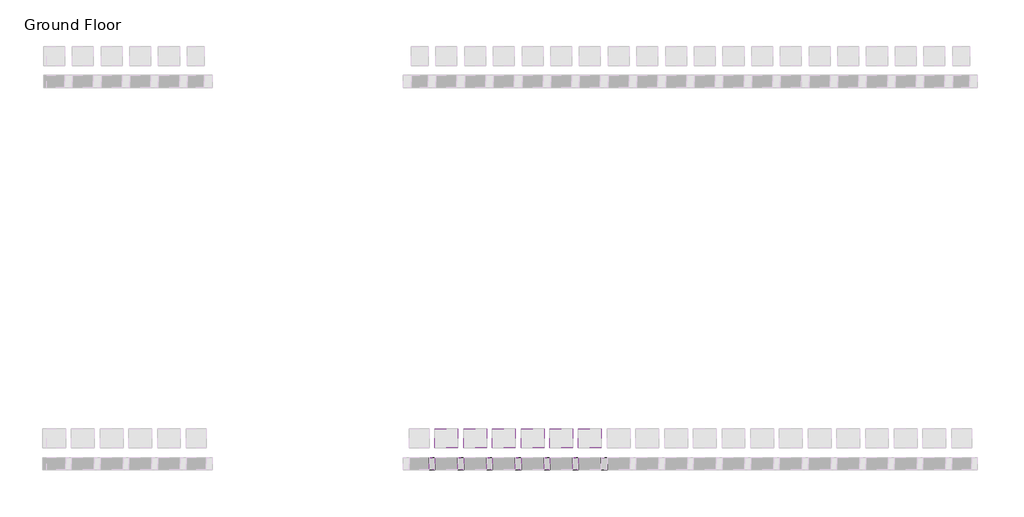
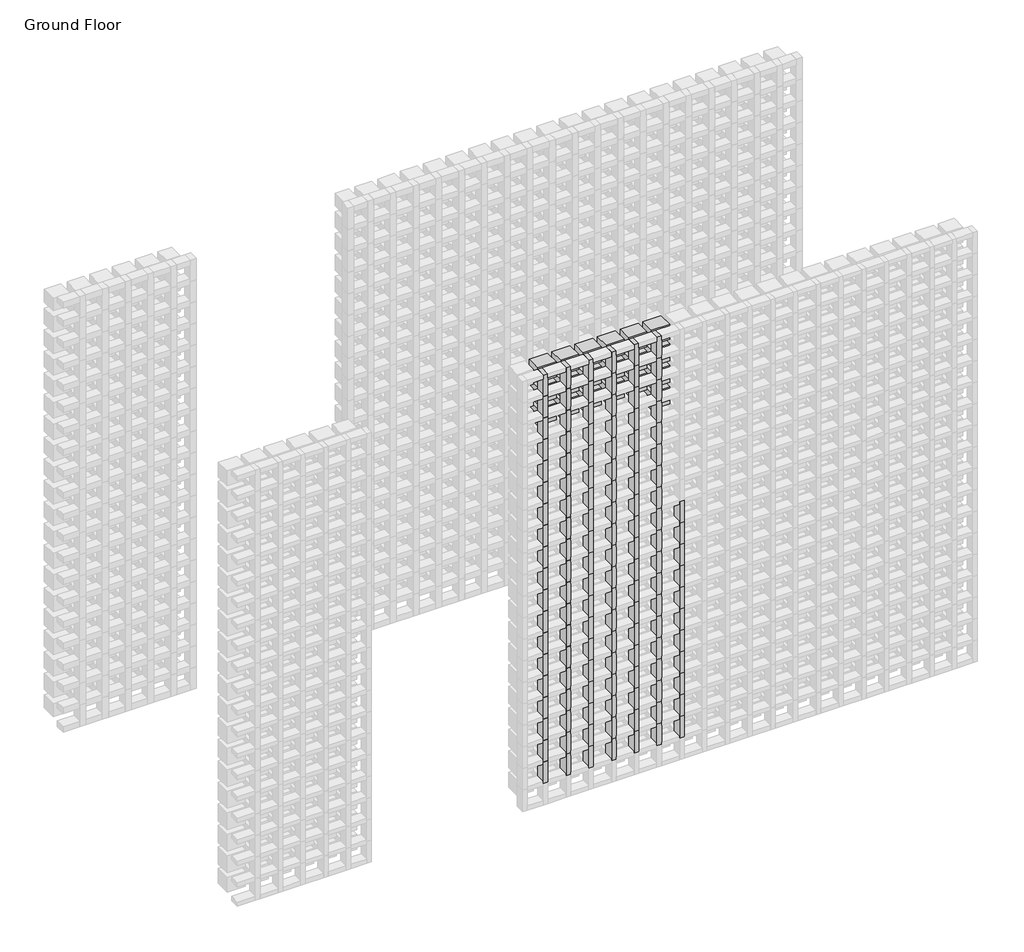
# One storey, part 66 of 350: 125 members, 19 plates.
"""IFC4 building model written with IfcOpenShell, lengths in millimetres."""

from ifc_helpers import new_model, si_unit, origin, place, context, project, spatial, transform, mapped, element, save
from components import rectangular_mullion_5b501421, empty_system_panel_empty_a57e421f, empty_system_panel_empty_fe50b430

model = new_model("IFC4")

# Units and contexts
model_context = context("Model", 3, world=origin())
ifc_project = project(units=[si_unit("LENGTHUNIT", "METRE", prefix="MILLI")], contexts=[model_context])

# Site, building, storey
site = spatial("IfcSite", under=ifc_project)
building = spatial("IfcBuilding", under=site)
storey = spatial("IfcBuildingStorey", under=building, Name="Ground Floor", Elevation=0.0)

# Members
placement = place(None, origin())
rectangular_mullion_shape = rectangular_mullion_5b501421(model_context)
element("IfcMember", 1, ObjectType="Rectangular Mullion : Batten_Timber_Modinex_Austratus_Grid_Fascia_30x65_Hemlock", at=placement, inside=storey, context=model_context, shape_type="MappedRepresentation", body=[
    mapped(rectangular_mullion_shape, transform((10066.4361642, 38968.2978302, 150.0), x_axis=(1.0, 0.0, 0.0), y_axis=(0.0, -1.0, 0.0), z_axis=(0.0, 0.0, -1.0))),
])
element("IfcMember", 2, ObjectType="Rectangular Mullion : Batten_Timber_Modinex_Austratus_Grid_Fascia_30x65_Hemlock", at=placement, inside=storey, context=model_context, shape_type="MappedRepresentation", body=[
    mapped(rectangular_mullion_shape, transform((10066.4361642, 38968.2978302, 300.0), x_axis=(1.0, 0.0, 0.0), y_axis=(0.0, -1.0, 0.0), z_axis=(0.0, 0.0, -1.0))),
])
element("IfcMember", 3, ObjectType="Rectangular Mullion : Batten_Timber_Modinex_Austratus_Grid_Fascia_30x65_Hemlock", at=placement, inside=storey, context=model_context, shape_type="MappedRepresentation", body=[
    mapped(rectangular_mullion_shape, transform((10066.4361642, 38968.2978302, 450.0), x_axis=(1.0, 0.0, 0.0), y_axis=(0.0, -1.0, 0.0), z_axis=(0.0, 0.0, -1.0))),
])
element("IfcMember", 4, ObjectType="Rectangular Mullion : Batten_Timber_Modinex_Austratus_Grid_Fascia_30x65_Hemlock", at=placement, inside=storey, context=model_context, shape_type="MappedRepresentation", body=[
    mapped(rectangular_mullion_shape, transform((10066.4361642, 38968.2978302, 600.0), x_axis=(1.0, 0.0, 0.0), y_axis=(0.0, -1.0, 0.0), z_axis=(0.0, 0.0, -1.0))),
])
element("IfcMember", 5, ObjectType="Rectangular Mullion : Batten_Timber_Modinex_Austratus_Grid_Fascia_30x65_Hemlock", at=placement, inside=storey, context=model_context, shape_type="MappedRepresentation", body=[
    mapped(rectangular_mullion_shape, transform((10066.4361642, 38968.2978302, 750.0), x_axis=(1.0, 0.0, 0.0), y_axis=(0.0, -1.0, 0.0), z_axis=(0.0, 0.0, -1.0))),
])
element("IfcMember", 6, ObjectType="Rectangular Mullion : Batten_Timber_Modinex_Austratus_Grid_Fascia_30x65_Hemlock", at=placement, inside=storey, context=model_context, shape_type="MappedRepresentation", body=[
    mapped(rectangular_mullion_shape, transform((10066.4361642, 38968.2978302, 900.0), x_axis=(1.0, 0.0, 0.0), y_axis=(0.0, -1.0, 0.0), z_axis=(0.0, 0.0, -1.0))),
])
element("IfcMember", 7, ObjectType="Rectangular Mullion : Batten_Timber_Modinex_Austratus_Grid_Fascia_30x65_Hemlock", at=placement, inside=storey, context=model_context, shape_type="MappedRepresentation", body=[
    mapped(rectangular_mullion_shape, transform((10066.4361642, 38968.2978302, 1050.0), x_axis=(1.0, 0.0, 0.0), y_axis=(0.0, -1.0, 0.0), z_axis=(0.0, 0.0, -1.0))),
])
element("IfcMember", 8, ObjectType="Rectangular Mullion : Batten_Timber_Modinex_Austratus_Grid_Fascia_30x65_Hemlock", at=placement, inside=storey, context=model_context, shape_type="MappedRepresentation", body=[
    mapped(rectangular_mullion_shape, transform((10066.4361642, 38968.2978302, 1200.0), x_axis=(1.0, 0.0, 0.0), y_axis=(0.0, -1.0, 0.0), z_axis=(0.0, 0.0, -1.0))),
])
element("IfcMember", 9, ObjectType="Rectangular Mullion : Batten_Timber_Modinex_Austratus_Grid_Fascia_30x65_Hemlock", at=placement, inside=storey, context=model_context, shape_type="MappedRepresentation", body=[
    mapped(rectangular_mullion_shape, transform((10066.4361642, 38968.2978302, 1350.0), x_axis=(1.0, 0.0, 0.0), y_axis=(0.0, -1.0, 0.0), z_axis=(0.0, 0.0, -1.0))),
])
element("IfcMember", 10, ObjectType="Rectangular Mullion : Batten_Timber_Modinex_Austratus_Grid_Fascia_30x65_Hemlock", at=placement, inside=storey, context=model_context, shape_type="MappedRepresentation", body=[
    mapped(rectangular_mullion_shape, transform((10066.4361642, 38968.2978302, 1500.0), x_axis=(1.0, 0.0, 0.0), y_axis=(0.0, -1.0, 0.0), z_axis=(0.0, 0.0, -1.0))),
])
element("IfcMember", 11, ObjectType="Rectangular Mullion : Batten_Timber_Modinex_Austratus_Grid_Fascia_30x65_Hemlock", at=placement, inside=storey, context=model_context, shape_type="MappedRepresentation", body=[
    mapped(rectangular_mullion_shape, transform((10066.4361642, 38968.2978302, 1650.0), x_axis=(1.0, 0.0, 0.0), y_axis=(0.0, -1.0, 0.0), z_axis=(0.0, 0.0, -1.0))),
])
element("IfcMember", 12, ObjectType="Rectangular Mullion : Batten_Timber_Modinex_Austratus_Grid_Fascia_30x65_Hemlock", at=placement, inside=storey, context=model_context, shape_type="MappedRepresentation", body=[
    mapped(rectangular_mullion_shape, transform((10066.4361642, 38968.2978302, 1800.0), x_axis=(1.0, 0.0, 0.0), y_axis=(0.0, -1.0, 0.0), z_axis=(0.0, 0.0, -1.0))),
])
element("IfcMember", 13, ObjectType="Rectangular Mullion : Batten_Timber_Modinex_Austratus_Grid_Fascia_30x65_Hemlock", at=placement, inside=storey, context=model_context, shape_type="MappedRepresentation", body=[
    mapped(rectangular_mullion_shape, transform((10066.4361642, 38968.2978302, 1950.0), x_axis=(1.0, 0.0, 0.0), y_axis=(0.0, -1.0, 0.0), z_axis=(0.0, 0.0, -1.0))),
])
element("IfcMember", 14, ObjectType="Rectangular Mullion : Batten_Timber_Modinex_Austratus_Grid_Fascia_30x65_Hemlock", at=placement, inside=storey, context=model_context, shape_type="MappedRepresentation", body=[
    mapped(rectangular_mullion_shape, transform((10066.4361642, 38968.2978302, 2100.0), x_axis=(1.0, 0.0, 0.0), y_axis=(0.0, -1.0, 0.0), z_axis=(0.0, 0.0, -1.0))),
])
element("IfcMember", 15, ObjectType="Rectangular Mullion : Batten_Timber_Modinex_Austratus_Grid_Fascia_30x65_Hemlock", at=placement, inside=storey, context=model_context, shape_type="MappedRepresentation", body=[
    mapped(rectangular_mullion_shape, transform((10066.4361642, 38968.2978302, 2250.0), x_axis=(1.0, 0.0, 0.0), y_axis=(0.0, -1.0, 0.0), z_axis=(0.0, 0.0, -1.0))),
])
element("IfcMember", 16, ObjectType="Rectangular Mullion : Batten_Timber_Modinex_Austratus_Grid_Fascia_30x65_Hemlock", at=placement, inside=storey, context=model_context, shape_type="MappedRepresentation", body=[
    mapped(rectangular_mullion_shape, transform((10066.4361642, 38968.2978302, 2400.0), x_axis=(1.0, 0.0, 0.0), y_axis=(0.0, -1.0, 0.0), z_axis=(0.0, 0.0, -1.0))),
])
element("IfcMember", 17, ObjectType="Rectangular Mullion : Batten_Timber_Modinex_Austratus_Grid_Fascia_30x65_Hemlock", at=placement, inside=storey, context=model_context, shape_type="MappedRepresentation", body=[
    mapped(rectangular_mullion_shape, transform((10066.4361642, 38968.2978302, 2550.0), x_axis=(1.0, 0.0, 0.0), y_axis=(0.0, -1.0, 0.0), z_axis=(0.0, 0.0, -1.0))),
])
element("IfcMember", 18, ObjectType="Rectangular Mullion : Batten_Timber_Modinex_Austratus_Grid_Fascia_30x65_Hemlock", at=placement, inside=storey, context=model_context, shape_type="MappedRepresentation", body=[
    mapped(rectangular_mullion_shape, transform((10066.4361642, 38968.2978302, 2700.0), x_axis=(1.0, 0.0, 0.0), y_axis=(0.0, -1.0, 0.0), z_axis=(0.0, 0.0, -1.0))),
])
element("IfcMember", 19, ObjectType="Rectangular Mullion : Batten_Timber_Modinex_Austratus_Grid_Fascia_30x65_Hemlock", at=placement, inside=storey, context=model_context, shape_type="MappedRepresentation", body=[
    mapped(rectangular_mullion_shape, transform((10216.4361642, 38968.2978302, 150.0), x_axis=(1.0, 0.0, 0.0), y_axis=(0.0, -1.0, 0.0), z_axis=(0.0, 0.0, -1.0))),
])
element("IfcMember", 20, ObjectType="Rectangular Mullion : Batten_Timber_Modinex_Austratus_Grid_Fascia_30x65_Hemlock", at=placement, inside=storey, context=model_context, shape_type="MappedRepresentation", body=[
    mapped(rectangular_mullion_shape, transform((10216.4361642, 38968.2978302, 300.0), x_axis=(1.0, 0.0, 0.0), y_axis=(0.0, -1.0, 0.0), z_axis=(0.0, 0.0, -1.0))),
])
element("IfcMember", 21, ObjectType="Rectangular Mullion : Batten_Timber_Modinex_Austratus_Grid_Fascia_30x65_Hemlock", at=placement, inside=storey, context=model_context, shape_type="MappedRepresentation", body=[
    mapped(rectangular_mullion_shape, transform((10216.4361642, 38968.2978302, 450.0), x_axis=(1.0, 0.0, 0.0), y_axis=(0.0, -1.0, 0.0), z_axis=(0.0, 0.0, -1.0))),
])
element("IfcMember", 22, ObjectType="Rectangular Mullion : Batten_Timber_Modinex_Austratus_Grid_Fascia_30x65_Hemlock", at=placement, inside=storey, context=model_context, shape_type="MappedRepresentation", body=[
    mapped(rectangular_mullion_shape, transform((10216.4361642, 38968.2978302, 600.0), x_axis=(1.0, 0.0, 0.0), y_axis=(0.0, -1.0, 0.0), z_axis=(0.0, 0.0, -1.0))),
])
element("IfcMember", 23, ObjectType="Rectangular Mullion : Batten_Timber_Modinex_Austratus_Grid_Fascia_30x65_Hemlock", at=placement, inside=storey, context=model_context, shape_type="MappedRepresentation", body=[
    mapped(rectangular_mullion_shape, transform((10216.4361642, 38968.2978302, 750.0), x_axis=(1.0, 0.0, 0.0), y_axis=(0.0, -1.0, 0.0), z_axis=(0.0, 0.0, -1.0))),
])
element("IfcMember", 24, ObjectType="Rectangular Mullion : Batten_Timber_Modinex_Austratus_Grid_Fascia_30x65_Hemlock", at=placement, inside=storey, context=model_context, shape_type="MappedRepresentation", body=[
    mapped(rectangular_mullion_shape, transform((10216.4361642, 38968.2978302, 900.0), x_axis=(1.0, 0.0, 0.0), y_axis=(0.0, -1.0, 0.0), z_axis=(0.0, 0.0, -1.0))),
])
element("IfcMember", 25, ObjectType="Rectangular Mullion : Batten_Timber_Modinex_Austratus_Grid_Fascia_30x65_Hemlock", at=placement, inside=storey, context=model_context, shape_type="MappedRepresentation", body=[
    mapped(rectangular_mullion_shape, transform((10216.4361642, 38968.2978302, 1050.0), x_axis=(1.0, 0.0, 0.0), y_axis=(0.0, -1.0, 0.0), z_axis=(0.0, 0.0, -1.0))),
])
element("IfcMember", 26, ObjectType="Rectangular Mullion : Batten_Timber_Modinex_Austratus_Grid_Fascia_30x65_Hemlock", at=placement, inside=storey, context=model_context, shape_type="MappedRepresentation", body=[
    mapped(rectangular_mullion_shape, transform((10216.4361642, 38968.2978302, 1200.0), x_axis=(1.0, 0.0, 0.0), y_axis=(0.0, -1.0, 0.0), z_axis=(0.0, 0.0, -1.0))),
])
element("IfcMember", 27, ObjectType="Rectangular Mullion : Batten_Timber_Modinex_Austratus_Grid_Fascia_30x65_Hemlock", at=placement, inside=storey, context=model_context, shape_type="MappedRepresentation", body=[
    mapped(rectangular_mullion_shape, transform((10216.4361642, 38968.2978302, 1350.0), x_axis=(1.0, 0.0, 0.0), y_axis=(0.0, -1.0, 0.0), z_axis=(0.0, 0.0, -1.0))),
])
element("IfcMember", 28, ObjectType="Rectangular Mullion : Batten_Timber_Modinex_Austratus_Grid_Fascia_30x65_Hemlock", at=placement, inside=storey, context=model_context, shape_type="MappedRepresentation", body=[
    mapped(rectangular_mullion_shape, transform((10216.4361642, 38968.2978302, 1500.0), x_axis=(1.0, 0.0, 0.0), y_axis=(0.0, -1.0, 0.0), z_axis=(0.0, 0.0, -1.0))),
])
element("IfcMember", 29, ObjectType="Rectangular Mullion : Batten_Timber_Modinex_Austratus_Grid_Fascia_30x65_Hemlock", at=placement, inside=storey, context=model_context, shape_type="MappedRepresentation", body=[
    mapped(rectangular_mullion_shape, transform((10216.4361642, 38968.2978302, 1650.0), x_axis=(1.0, 0.0, 0.0), y_axis=(0.0, -1.0, 0.0), z_axis=(0.0, 0.0, -1.0))),
])
element("IfcMember", 30, ObjectType="Rectangular Mullion : Batten_Timber_Modinex_Austratus_Grid_Fascia_30x65_Hemlock", at=placement, inside=storey, context=model_context, shape_type="MappedRepresentation", body=[
    mapped(rectangular_mullion_shape, transform((10216.4361642, 38968.2978302, 1800.0), x_axis=(1.0, 0.0, 0.0), y_axis=(0.0, -1.0, 0.0), z_axis=(0.0, 0.0, -1.0))),
])
element("IfcMember", 31, ObjectType="Rectangular Mullion : Batten_Timber_Modinex_Austratus_Grid_Fascia_30x65_Hemlock", at=placement, inside=storey, context=model_context, shape_type="MappedRepresentation", body=[
    mapped(rectangular_mullion_shape, transform((10216.4361642, 38968.2978302, 1950.0), x_axis=(1.0, 0.0, 0.0), y_axis=(0.0, -1.0, 0.0), z_axis=(0.0, 0.0, -1.0))),
])
element("IfcMember", 32, ObjectType="Rectangular Mullion : Batten_Timber_Modinex_Austratus_Grid_Fascia_30x65_Hemlock", at=placement, inside=storey, context=model_context, shape_type="MappedRepresentation", body=[
    mapped(rectangular_mullion_shape, transform((10216.4361642, 38968.2978302, 2100.0), x_axis=(1.0, 0.0, 0.0), y_axis=(0.0, -1.0, 0.0), z_axis=(0.0, 0.0, -1.0))),
])
element("IfcMember", 33, ObjectType="Rectangular Mullion : Batten_Timber_Modinex_Austratus_Grid_Fascia_30x65_Hemlock", at=placement, inside=storey, context=model_context, shape_type="MappedRepresentation", body=[
    mapped(rectangular_mullion_shape, transform((10216.4361642, 38968.2978302, 2250.0), x_axis=(1.0, 0.0, 0.0), y_axis=(0.0, -1.0, 0.0), z_axis=(0.0, 0.0, -1.0))),
])
element("IfcMember", 34, ObjectType="Rectangular Mullion : Batten_Timber_Modinex_Austratus_Grid_Fascia_30x65_Hemlock", at=placement, inside=storey, context=model_context, shape_type="MappedRepresentation", body=[
    mapped(rectangular_mullion_shape, transform((10216.4361642, 38968.2978302, 2400.0), x_axis=(1.0, 0.0, 0.0), y_axis=(0.0, -1.0, 0.0), z_axis=(0.0, 0.0, -1.0))),
])
element("IfcMember", 35, ObjectType="Rectangular Mullion : Batten_Timber_Modinex_Austratus_Grid_Fascia_30x65_Hemlock", at=placement, inside=storey, context=model_context, shape_type="MappedRepresentation", body=[
    mapped(rectangular_mullion_shape, transform((10216.4361642, 38968.2978302, 2550.0), x_axis=(1.0, 0.0, 0.0), y_axis=(0.0, -1.0, 0.0), z_axis=(0.0, 0.0, -1.0))),
])
element("IfcMember", 36, ObjectType="Rectangular Mullion : Batten_Timber_Modinex_Austratus_Grid_Fascia_30x65_Hemlock", at=placement, inside=storey, context=model_context, shape_type="MappedRepresentation", body=[
    mapped(rectangular_mullion_shape, transform((10216.4361642, 38968.2978302, 2700.0), x_axis=(1.0, 0.0, 0.0), y_axis=(0.0, -1.0, 0.0), z_axis=(0.0, 0.0, -1.0))),
])
element("IfcMember", 37, ObjectType="Rectangular Mullion : Batten_Timber_Modinex_Austratus_Grid_Fascia_30x65_Hemlock", at=placement, inside=storey, context=model_context, shape_type="MappedRepresentation", body=[
    mapped(rectangular_mullion_shape, transform((10366.4361642, 38968.2978302, 150.0), x_axis=(1.0, 0.0, 0.0), y_axis=(0.0, -1.0, 0.0), z_axis=(0.0, 0.0, -1.0))),
])
element("IfcMember", 38, ObjectType="Rectangular Mullion : Batten_Timber_Modinex_Austratus_Grid_Fascia_30x65_Hemlock", at=placement, inside=storey, context=model_context, shape_type="MappedRepresentation", body=[
    mapped(rectangular_mullion_shape, transform((10366.4361642, 38968.2978302, 300.0), x_axis=(1.0, 0.0, 0.0), y_axis=(0.0, -1.0, 0.0), z_axis=(0.0, 0.0, -1.0))),
])
element("IfcMember", 39, ObjectType="Rectangular Mullion : Batten_Timber_Modinex_Austratus_Grid_Fascia_30x65_Hemlock", at=placement, inside=storey, context=model_context, shape_type="MappedRepresentation", body=[
    mapped(rectangular_mullion_shape, transform((10366.4361642, 38968.2978302, 450.0), x_axis=(1.0, 0.0, 0.0), y_axis=(0.0, -1.0, 0.0), z_axis=(0.0, 0.0, -1.0))),
])
element("IfcMember", 40, ObjectType="Rectangular Mullion : Batten_Timber_Modinex_Austratus_Grid_Fascia_30x65_Hemlock", at=placement, inside=storey, context=model_context, shape_type="MappedRepresentation", body=[
    mapped(rectangular_mullion_shape, transform((10366.4361642, 38968.2978302, 600.0), x_axis=(1.0, 0.0, 0.0), y_axis=(0.0, -1.0, 0.0), z_axis=(0.0, 0.0, -1.0))),
])
element("IfcMember", 41, ObjectType="Rectangular Mullion : Batten_Timber_Modinex_Austratus_Grid_Fascia_30x65_Hemlock", at=placement, inside=storey, context=model_context, shape_type="MappedRepresentation", body=[
    mapped(rectangular_mullion_shape, transform((10366.4361642, 38968.2978302, 750.0), x_axis=(1.0, 0.0, 0.0), y_axis=(0.0, -1.0, 0.0), z_axis=(0.0, 0.0, -1.0))),
])
element("IfcMember", 42, ObjectType="Rectangular Mullion : Batten_Timber_Modinex_Austratus_Grid_Fascia_30x65_Hemlock", at=placement, inside=storey, context=model_context, shape_type="MappedRepresentation", body=[
    mapped(rectangular_mullion_shape, transform((10366.4361642, 38968.2978302, 900.0), x_axis=(1.0, 0.0, 0.0), y_axis=(0.0, -1.0, 0.0), z_axis=(0.0, 0.0, -1.0))),
])
element("IfcMember", 43, ObjectType="Rectangular Mullion : Batten_Timber_Modinex_Austratus_Grid_Fascia_30x65_Hemlock", at=placement, inside=storey, context=model_context, shape_type="MappedRepresentation", body=[
    mapped(rectangular_mullion_shape, transform((10366.4361642, 38968.2978302, 1050.0), x_axis=(1.0, 0.0, 0.0), y_axis=(0.0, -1.0, 0.0), z_axis=(0.0, 0.0, -1.0))),
])
element("IfcMember", 44, ObjectType="Rectangular Mullion : Batten_Timber_Modinex_Austratus_Grid_Fascia_30x65_Hemlock", at=placement, inside=storey, context=model_context, shape_type="MappedRepresentation", body=[
    mapped(rectangular_mullion_shape, transform((10366.4361642, 38968.2978302, 1200.0), x_axis=(1.0, 0.0, 0.0), y_axis=(0.0, -1.0, 0.0), z_axis=(0.0, 0.0, -1.0))),
])
element("IfcMember", 45, ObjectType="Rectangular Mullion : Batten_Timber_Modinex_Austratus_Grid_Fascia_30x65_Hemlock", at=placement, inside=storey, context=model_context, shape_type="MappedRepresentation", body=[
    mapped(rectangular_mullion_shape, transform((10366.4361642, 38968.2978302, 1350.0), x_axis=(1.0, 0.0, 0.0), y_axis=(0.0, -1.0, 0.0), z_axis=(0.0, 0.0, -1.0))),
])
element("IfcMember", 46, ObjectType="Rectangular Mullion : Batten_Timber_Modinex_Austratus_Grid_Fascia_30x65_Hemlock", at=placement, inside=storey, context=model_context, shape_type="MappedRepresentation", body=[
    mapped(rectangular_mullion_shape, transform((10366.4361642, 38968.2978302, 1500.0), x_axis=(1.0, 0.0, 0.0), y_axis=(0.0, -1.0, 0.0), z_axis=(0.0, 0.0, -1.0))),
])
element("IfcMember", 47, ObjectType="Rectangular Mullion : Batten_Timber_Modinex_Austratus_Grid_Fascia_30x65_Hemlock", at=placement, inside=storey, context=model_context, shape_type="MappedRepresentation", body=[
    mapped(rectangular_mullion_shape, transform((10366.4361642, 38968.2978302, 1650.0), x_axis=(1.0, 0.0, 0.0), y_axis=(0.0, -1.0, 0.0), z_axis=(0.0, 0.0, -1.0))),
])
element("IfcMember", 48, ObjectType="Rectangular Mullion : Batten_Timber_Modinex_Austratus_Grid_Fascia_30x65_Hemlock", at=placement, inside=storey, context=model_context, shape_type="MappedRepresentation", body=[
    mapped(rectangular_mullion_shape, transform((10366.4361642, 38968.2978302, 1800.0), x_axis=(1.0, 0.0, 0.0), y_axis=(0.0, -1.0, 0.0), z_axis=(0.0, 0.0, -1.0))),
])
element("IfcMember", 49, ObjectType="Rectangular Mullion : Batten_Timber_Modinex_Austratus_Grid_Fascia_30x65_Hemlock", at=placement, inside=storey, context=model_context, shape_type="MappedRepresentation", body=[
    mapped(rectangular_mullion_shape, transform((10366.4361642, 38968.2978302, 1950.0), x_axis=(1.0, 0.0, 0.0), y_axis=(0.0, -1.0, 0.0), z_axis=(0.0, 0.0, -1.0))),
])
element("IfcMember", 50, ObjectType="Rectangular Mullion : Batten_Timber_Modinex_Austratus_Grid_Fascia_30x65_Hemlock", at=placement, inside=storey, context=model_context, shape_type="MappedRepresentation", body=[
    mapped(rectangular_mullion_shape, transform((10366.4361642, 38968.2978302, 2100.0), x_axis=(1.0, 0.0, 0.0), y_axis=(0.0, -1.0, 0.0), z_axis=(0.0, 0.0, -1.0))),
])
element("IfcMember", 51, ObjectType="Rectangular Mullion : Batten_Timber_Modinex_Austratus_Grid_Fascia_30x65_Hemlock", at=placement, inside=storey, context=model_context, shape_type="MappedRepresentation", body=[
    mapped(rectangular_mullion_shape, transform((10366.4361642, 38968.2978302, 2250.0), x_axis=(1.0, 0.0, 0.0), y_axis=(0.0, -1.0, 0.0), z_axis=(0.0, 0.0, -1.0))),
])
element("IfcMember", 52, ObjectType="Rectangular Mullion : Batten_Timber_Modinex_Austratus_Grid_Fascia_30x65_Hemlock", at=placement, inside=storey, context=model_context, shape_type="MappedRepresentation", body=[
    mapped(rectangular_mullion_shape, transform((10366.4361642, 38968.2978302, 2400.0), x_axis=(1.0, 0.0, 0.0), y_axis=(0.0, -1.0, 0.0), z_axis=(0.0, 0.0, -1.0))),
])
element("IfcMember", 53, ObjectType="Rectangular Mullion : Batten_Timber_Modinex_Austratus_Grid_Fascia_30x65_Hemlock", at=placement, inside=storey, context=model_context, shape_type="MappedRepresentation", body=[
    mapped(rectangular_mullion_shape, transform((10366.4361642, 38968.2978302, 2550.0), x_axis=(1.0, 0.0, 0.0), y_axis=(0.0, -1.0, 0.0), z_axis=(0.0, 0.0, -1.0))),
])
element("IfcMember", 54, ObjectType="Rectangular Mullion : Batten_Timber_Modinex_Austratus_Grid_Fascia_30x65_Hemlock", at=placement, inside=storey, context=model_context, shape_type="MappedRepresentation", body=[
    mapped(rectangular_mullion_shape, transform((10366.4361642, 38968.2978302, 2700.0), x_axis=(1.0, 0.0, 0.0), y_axis=(0.0, -1.0, 0.0), z_axis=(0.0, 0.0, -1.0))),
])
element("IfcMember", 55, ObjectType="Rectangular Mullion : Batten_Timber_Modinex_Austratus_Grid_Fascia_30x65_Hemlock", at=placement, inside=storey, context=model_context, shape_type="MappedRepresentation", body=[
    mapped(rectangular_mullion_shape, transform((10516.4361642, 38968.2978302, 150.0), x_axis=(1.0, 0.0, 0.0), y_axis=(0.0, -1.0, 0.0), z_axis=(0.0, 0.0, -1.0))),
])
element("IfcMember", 56, ObjectType="Rectangular Mullion : Batten_Timber_Modinex_Austratus_Grid_Fascia_30x65_Hemlock", at=placement, inside=storey, context=model_context, shape_type="MappedRepresentation", body=[
    mapped(rectangular_mullion_shape, transform((10516.4361642, 38968.2978302, 300.0), x_axis=(1.0, 0.0, 0.0), y_axis=(0.0, -1.0, 0.0), z_axis=(0.0, 0.0, -1.0))),
])
element("IfcMember", 57, ObjectType="Rectangular Mullion : Batten_Timber_Modinex_Austratus_Grid_Fascia_30x65_Hemlock", at=placement, inside=storey, context=model_context, shape_type="MappedRepresentation", body=[
    mapped(rectangular_mullion_shape, transform((10516.4361642, 38968.2978302, 450.0), x_axis=(1.0, 0.0, 0.0), y_axis=(0.0, -1.0, 0.0), z_axis=(0.0, 0.0, -1.0))),
])
element("IfcMember", 58, ObjectType="Rectangular Mullion : Batten_Timber_Modinex_Austratus_Grid_Fascia_30x65_Hemlock", at=placement, inside=storey, context=model_context, shape_type="MappedRepresentation", body=[
    mapped(rectangular_mullion_shape, transform((10516.4361642, 38968.2978302, 600.0), x_axis=(1.0, 0.0, 0.0), y_axis=(0.0, -1.0, 0.0), z_axis=(0.0, 0.0, -1.0))),
])
element("IfcMember", 59, ObjectType="Rectangular Mullion : Batten_Timber_Modinex_Austratus_Grid_Fascia_30x65_Hemlock", at=placement, inside=storey, context=model_context, shape_type="MappedRepresentation", body=[
    mapped(rectangular_mullion_shape, transform((10516.4361642, 38968.2978302, 750.0), x_axis=(1.0, 0.0, 0.0), y_axis=(0.0, -1.0, 0.0), z_axis=(0.0, 0.0, -1.0))),
])
element("IfcMember", 60, ObjectType="Rectangular Mullion : Batten_Timber_Modinex_Austratus_Grid_Fascia_30x65_Hemlock", at=placement, inside=storey, context=model_context, shape_type="MappedRepresentation", body=[
    mapped(rectangular_mullion_shape, transform((10516.4361642, 38968.2978302, 900.0), x_axis=(1.0, 0.0, 0.0), y_axis=(0.0, -1.0, 0.0), z_axis=(0.0, 0.0, -1.0))),
])
element("IfcMember", 61, ObjectType="Rectangular Mullion : Batten_Timber_Modinex_Austratus_Grid_Fascia_30x65_Hemlock", at=placement, inside=storey, context=model_context, shape_type="MappedRepresentation", body=[
    mapped(rectangular_mullion_shape, transform((10516.4361642, 38968.2978302, 1050.0), x_axis=(1.0, 0.0, 0.0), y_axis=(0.0, -1.0, 0.0), z_axis=(0.0, 0.0, -1.0))),
])
element("IfcMember", 62, ObjectType="Rectangular Mullion : Batten_Timber_Modinex_Austratus_Grid_Fascia_30x65_Hemlock", at=placement, inside=storey, context=model_context, shape_type="MappedRepresentation", body=[
    mapped(rectangular_mullion_shape, transform((10516.4361642, 38968.2978302, 1200.0), x_axis=(1.0, 0.0, 0.0), y_axis=(0.0, -1.0, 0.0), z_axis=(0.0, 0.0, -1.0))),
])
element("IfcMember", 63, ObjectType="Rectangular Mullion : Batten_Timber_Modinex_Austratus_Grid_Fascia_30x65_Hemlock", at=placement, inside=storey, context=model_context, shape_type="MappedRepresentation", body=[
    mapped(rectangular_mullion_shape, transform((10516.4361642, 38968.2978302, 1350.0), x_axis=(1.0, 0.0, 0.0), y_axis=(0.0, -1.0, 0.0), z_axis=(0.0, 0.0, -1.0))),
])
element("IfcMember", 64, ObjectType="Rectangular Mullion : Batten_Timber_Modinex_Austratus_Grid_Fascia_30x65_Hemlock", at=placement, inside=storey, context=model_context, shape_type="MappedRepresentation", body=[
    mapped(rectangular_mullion_shape, transform((10516.4361642, 38968.2978302, 1500.0), x_axis=(1.0, 0.0, 0.0), y_axis=(0.0, -1.0, 0.0), z_axis=(0.0, 0.0, -1.0))),
])
element("IfcMember", 65, ObjectType="Rectangular Mullion : Batten_Timber_Modinex_Austratus_Grid_Fascia_30x65_Hemlock", at=placement, inside=storey, context=model_context, shape_type="MappedRepresentation", body=[
    mapped(rectangular_mullion_shape, transform((10516.4361642, 38968.2978302, 1650.0), x_axis=(1.0, 0.0, 0.0), y_axis=(0.0, -1.0, 0.0), z_axis=(0.0, 0.0, -1.0))),
])
element("IfcMember", 66, ObjectType="Rectangular Mullion : Batten_Timber_Modinex_Austratus_Grid_Fascia_30x65_Hemlock", at=placement, inside=storey, context=model_context, shape_type="MappedRepresentation", body=[
    mapped(rectangular_mullion_shape, transform((10516.4361642, 38968.2978302, 1800.0), x_axis=(1.0, 0.0, 0.0), y_axis=(0.0, -1.0, 0.0), z_axis=(0.0, 0.0, -1.0))),
])
element("IfcMember", 67, ObjectType="Rectangular Mullion : Batten_Timber_Modinex_Austratus_Grid_Fascia_30x65_Hemlock", at=placement, inside=storey, context=model_context, shape_type="MappedRepresentation", body=[
    mapped(rectangular_mullion_shape, transform((10516.4361642, 38968.2978302, 1950.0), x_axis=(1.0, 0.0, 0.0), y_axis=(0.0, -1.0, 0.0), z_axis=(0.0, 0.0, -1.0))),
])
element("IfcMember", 68, ObjectType="Rectangular Mullion : Batten_Timber_Modinex_Austratus_Grid_Fascia_30x65_Hemlock", at=placement, inside=storey, context=model_context, shape_type="MappedRepresentation", body=[
    mapped(rectangular_mullion_shape, transform((10516.4361642, 38968.2978302, 2100.0), x_axis=(1.0, 0.0, 0.0), y_axis=(0.0, -1.0, 0.0), z_axis=(0.0, 0.0, -1.0))),
])
element("IfcMember", 69, ObjectType="Rectangular Mullion : Batten_Timber_Modinex_Austratus_Grid_Fascia_30x65_Hemlock", at=placement, inside=storey, context=model_context, shape_type="MappedRepresentation", body=[
    mapped(rectangular_mullion_shape, transform((10516.4361642, 38968.2978302, 2250.0), x_axis=(1.0, 0.0, 0.0), y_axis=(0.0, -1.0, 0.0), z_axis=(0.0, 0.0, -1.0))),
])
element("IfcMember", 70, ObjectType="Rectangular Mullion : Batten_Timber_Modinex_Austratus_Grid_Fascia_30x65_Hemlock", at=placement, inside=storey, context=model_context, shape_type="MappedRepresentation", body=[
    mapped(rectangular_mullion_shape, transform((10516.4361642, 38968.2978302, 2400.0), x_axis=(1.0, 0.0, 0.0), y_axis=(0.0, -1.0, 0.0), z_axis=(0.0, 0.0, -1.0))),
])
element("IfcMember", 71, ObjectType="Rectangular Mullion : Batten_Timber_Modinex_Austratus_Grid_Fascia_30x65_Hemlock", at=placement, inside=storey, context=model_context, shape_type="MappedRepresentation", body=[
    mapped(rectangular_mullion_shape, transform((10516.4361642, 38968.2978302, 2550.0), x_axis=(1.0, 0.0, 0.0), y_axis=(0.0, -1.0, 0.0), z_axis=(0.0, 0.0, -1.0))),
])
element("IfcMember", 72, ObjectType="Rectangular Mullion : Batten_Timber_Modinex_Austratus_Grid_Fascia_30x65_Hemlock", at=placement, inside=storey, context=model_context, shape_type="MappedRepresentation", body=[
    mapped(rectangular_mullion_shape, transform((10516.4361642, 38968.2978302, 2700.0), x_axis=(1.0, 0.0, 0.0), y_axis=(0.0, -1.0, 0.0), z_axis=(0.0, 0.0, -1.0))),
])
element("IfcMember", 73, ObjectType="Rectangular Mullion : Batten_Timber_Modinex_Austratus_Grid_Fascia_30x65_Hemlock", at=placement, inside=storey, context=model_context, shape_type="MappedRepresentation", body=[
    mapped(rectangular_mullion_shape, transform((10666.4361642, 38968.2978302, 150.0), x_axis=(1.0, 0.0, 0.0), y_axis=(0.0, -1.0, 0.0), z_axis=(0.0, 0.0, -1.0))),
])
element("IfcMember", 74, ObjectType="Rectangular Mullion : Batten_Timber_Modinex_Austratus_Grid_Fascia_30x65_Hemlock", at=placement, inside=storey, context=model_context, shape_type="MappedRepresentation", body=[
    mapped(rectangular_mullion_shape, transform((10666.4361642, 38968.2978302, 300.0), x_axis=(1.0, 0.0, 0.0), y_axis=(0.0, -1.0, 0.0), z_axis=(0.0, 0.0, -1.0))),
])
element("IfcMember", 75, ObjectType="Rectangular Mullion : Batten_Timber_Modinex_Austratus_Grid_Fascia_30x65_Hemlock", at=placement, inside=storey, context=model_context, shape_type="MappedRepresentation", body=[
    mapped(rectangular_mullion_shape, transform((10666.4361642, 38968.2978302, 450.0), x_axis=(1.0, 0.0, 0.0), y_axis=(0.0, -1.0, 0.0), z_axis=(0.0, 0.0, -1.0))),
])
element("IfcMember", 76, ObjectType="Rectangular Mullion : Batten_Timber_Modinex_Austratus_Grid_Fascia_30x65_Hemlock", at=placement, inside=storey, context=model_context, shape_type="MappedRepresentation", body=[
    mapped(rectangular_mullion_shape, transform((10666.4361642, 38968.2978302, 600.0), x_axis=(1.0, 0.0, 0.0), y_axis=(0.0, -1.0, 0.0), z_axis=(0.0, 0.0, -1.0))),
])
element("IfcMember", 77, ObjectType="Rectangular Mullion : Batten_Timber_Modinex_Austratus_Grid_Fascia_30x65_Hemlock", at=placement, inside=storey, context=model_context, shape_type="MappedRepresentation", body=[
    mapped(rectangular_mullion_shape, transform((10666.4361642, 38968.2978302, 750.0), x_axis=(1.0, 0.0, 0.0), y_axis=(0.0, -1.0, 0.0), z_axis=(0.0, 0.0, -1.0))),
])
element("IfcMember", 78, ObjectType="Rectangular Mullion : Batten_Timber_Modinex_Austratus_Grid_Fascia_30x65_Hemlock", at=placement, inside=storey, context=model_context, shape_type="MappedRepresentation", body=[
    mapped(rectangular_mullion_shape, transform((10666.4361642, 38968.2978302, 900.0), x_axis=(1.0, 0.0, 0.0), y_axis=(0.0, -1.0, 0.0), z_axis=(0.0, 0.0, -1.0))),
])
element("IfcMember", 79, ObjectType="Rectangular Mullion : Batten_Timber_Modinex_Austratus_Grid_Fascia_30x65_Hemlock", at=placement, inside=storey, context=model_context, shape_type="MappedRepresentation", body=[
    mapped(rectangular_mullion_shape, transform((10666.4361642, 38968.2978302, 1050.0), x_axis=(1.0, 0.0, 0.0), y_axis=(0.0, -1.0, 0.0), z_axis=(0.0, 0.0, -1.0))),
])
element("IfcMember", 80, ObjectType="Rectangular Mullion : Batten_Timber_Modinex_Austratus_Grid_Fascia_30x65_Hemlock", at=placement, inside=storey, context=model_context, shape_type="MappedRepresentation", body=[
    mapped(rectangular_mullion_shape, transform((10666.4361642, 38968.2978302, 1200.0), x_axis=(1.0, 0.0, 0.0), y_axis=(0.0, -1.0, 0.0), z_axis=(0.0, 0.0, -1.0))),
])
element("IfcMember", 81, ObjectType="Rectangular Mullion : Batten_Timber_Modinex_Austratus_Grid_Fascia_30x65_Hemlock", at=placement, inside=storey, context=model_context, shape_type="MappedRepresentation", body=[
    mapped(rectangular_mullion_shape, transform((10666.4361642, 38968.2978302, 1350.0), x_axis=(1.0, 0.0, 0.0), y_axis=(0.0, -1.0, 0.0), z_axis=(0.0, 0.0, -1.0))),
])
element("IfcMember", 82, ObjectType="Rectangular Mullion : Batten_Timber_Modinex_Austratus_Grid_Fascia_30x65_Hemlock", at=placement, inside=storey, context=model_context, shape_type="MappedRepresentation", body=[
    mapped(rectangular_mullion_shape, transform((10666.4361642, 38968.2978302, 1500.0), x_axis=(1.0, 0.0, 0.0), y_axis=(0.0, -1.0, 0.0), z_axis=(0.0, 0.0, -1.0))),
])
element("IfcMember", 83, ObjectType="Rectangular Mullion : Batten_Timber_Modinex_Austratus_Grid_Fascia_30x65_Hemlock", at=placement, inside=storey, context=model_context, shape_type="MappedRepresentation", body=[
    mapped(rectangular_mullion_shape, transform((10666.4361642, 38968.2978302, 1650.0), x_axis=(1.0, 0.0, 0.0), y_axis=(0.0, -1.0, 0.0), z_axis=(0.0, 0.0, -1.0))),
])
element("IfcMember", 84, ObjectType="Rectangular Mullion : Batten_Timber_Modinex_Austratus_Grid_Fascia_30x65_Hemlock", at=placement, inside=storey, context=model_context, shape_type="MappedRepresentation", body=[
    mapped(rectangular_mullion_shape, transform((10666.4361642, 38968.2978302, 1800.0), x_axis=(1.0, 0.0, 0.0), y_axis=(0.0, -1.0, 0.0), z_axis=(0.0, 0.0, -1.0))),
])
element("IfcMember", 85, ObjectType="Rectangular Mullion : Batten_Timber_Modinex_Austratus_Grid_Fascia_30x65_Hemlock", at=placement, inside=storey, context=model_context, shape_type="MappedRepresentation", body=[
    mapped(rectangular_mullion_shape, transform((10666.4361642, 38968.2978302, 1950.0), x_axis=(1.0, 0.0, 0.0), y_axis=(0.0, -1.0, 0.0), z_axis=(0.0, 0.0, -1.0))),
])
element("IfcMember", 86, ObjectType="Rectangular Mullion : Batten_Timber_Modinex_Austratus_Grid_Fascia_30x65_Hemlock", at=placement, inside=storey, context=model_context, shape_type="MappedRepresentation", body=[
    mapped(rectangular_mullion_shape, transform((10666.4361642, 38968.2978302, 2100.0), x_axis=(1.0, 0.0, 0.0), y_axis=(0.0, -1.0, 0.0), z_axis=(0.0, 0.0, -1.0))),
])
element("IfcMember", 87, ObjectType="Rectangular Mullion : Batten_Timber_Modinex_Austratus_Grid_Fascia_30x65_Hemlock", at=placement, inside=storey, context=model_context, shape_type="MappedRepresentation", body=[
    mapped(rectangular_mullion_shape, transform((10666.4361642, 38968.2978302, 2250.0), x_axis=(1.0, 0.0, 0.0), y_axis=(0.0, -1.0, 0.0), z_axis=(0.0, 0.0, -1.0))),
])
element("IfcMember", 88, ObjectType="Rectangular Mullion : Batten_Timber_Modinex_Austratus_Grid_Fascia_30x65_Hemlock", at=placement, inside=storey, context=model_context, shape_type="MappedRepresentation", body=[
    mapped(rectangular_mullion_shape, transform((10666.4361642, 38968.2978302, 2400.0), x_axis=(1.0, 0.0, 0.0), y_axis=(0.0, -1.0, 0.0), z_axis=(0.0, 0.0, -1.0))),
])
element("IfcMember", 89, ObjectType="Rectangular Mullion : Batten_Timber_Modinex_Austratus_Grid_Fascia_30x65_Hemlock", at=placement, inside=storey, context=model_context, shape_type="MappedRepresentation", body=[
    mapped(rectangular_mullion_shape, transform((10666.4361642, 38968.2978302, 2550.0), x_axis=(1.0, 0.0, 0.0), y_axis=(0.0, -1.0, 0.0), z_axis=(0.0, 0.0, -1.0))),
])
element("IfcMember", 90, ObjectType="Rectangular Mullion : Batten_Timber_Modinex_Austratus_Grid_Fascia_30x65_Hemlock", at=placement, inside=storey, context=model_context, shape_type="MappedRepresentation", body=[
    mapped(rectangular_mullion_shape, transform((10666.4361642, 38968.2978302, 2700.0), x_axis=(1.0, 0.0, 0.0), y_axis=(0.0, -1.0, 0.0), z_axis=(0.0, 0.0, -1.0))),
])
element("IfcMember", 91, ObjectType="Rectangular Mullion : Batten_Timber_Modinex_Austratus_Grid_Fascia_30x65_Hemlock", at=placement, inside=storey, context=model_context, shape_type="MappedRepresentation", body=[
    mapped(rectangular_mullion_shape, transform((10816.4361642, 38968.2978302, 150.0), x_axis=(1.0, 0.0, 0.0), y_axis=(0.0, -1.0, 0.0), z_axis=(0.0, 0.0, -1.0))),
])
element("IfcMember", 92, ObjectType="Rectangular Mullion : Batten_Timber_Modinex_Austratus_Grid_Fascia_30x65_Hemlock", at=placement, inside=storey, context=model_context, shape_type="MappedRepresentation", body=[
    mapped(rectangular_mullion_shape, transform((10816.4361642, 38968.2978302, 300.0), x_axis=(1.0, 0.0, 0.0), y_axis=(0.0, -1.0, 0.0), z_axis=(0.0, 0.0, -1.0))),
])
element("IfcMember", 93, ObjectType="Rectangular Mullion : Batten_Timber_Modinex_Austratus_Grid_Fascia_30x65_Hemlock", at=placement, inside=storey, context=model_context, shape_type="MappedRepresentation", body=[
    mapped(rectangular_mullion_shape, transform((10816.4361642, 38968.2978302, 450.0), x_axis=(1.0, 0.0, 0.0), y_axis=(0.0, -1.0, 0.0), z_axis=(0.0, 0.0, -1.0))),
])
element("IfcMember", 94, ObjectType="Rectangular Mullion : Batten_Timber_Modinex_Austratus_Grid_Fascia_30x65_Hemlock", at=placement, inside=storey, context=model_context, shape_type="MappedRepresentation", body=[
    mapped(rectangular_mullion_shape, transform((10816.4361642, 38968.2978302, 600.0), x_axis=(1.0, 0.0, 0.0), y_axis=(0.0, -1.0, 0.0), z_axis=(0.0, 0.0, -1.0))),
])
element("IfcMember", 95, ObjectType="Rectangular Mullion : Batten_Timber_Modinex_Austratus_Grid_Fascia_30x65_Hemlock", at=placement, inside=storey, context=model_context, shape_type="MappedRepresentation", body=[
    mapped(rectangular_mullion_shape, transform((10816.4361642, 38968.2978302, 750.0), x_axis=(1.0, 0.0, 0.0), y_axis=(0.0, -1.0, 0.0), z_axis=(0.0, 0.0, -1.0))),
])
element("IfcMember", 96, ObjectType="Rectangular Mullion : Batten_Timber_Modinex_Austratus_Grid_Fascia_30x65_Hemlock", at=placement, inside=storey, context=model_context, shape_type="MappedRepresentation", body=[
    mapped(rectangular_mullion_shape, transform((10816.4361642, 38968.2978302, 900.0), x_axis=(1.0, 0.0, 0.0), y_axis=(0.0, -1.0, 0.0), z_axis=(0.0, 0.0, -1.0))),
])
element("IfcMember", 97, ObjectType="Rectangular Mullion : Batten_Timber_Modinex_Austratus_Grid_Fascia_30x65_Hemlock", at=placement, inside=storey, context=model_context, shape_type="MappedRepresentation", body=[
    mapped(rectangular_mullion_shape, transform((10816.4361642, 38968.2978302, 1050.0), x_axis=(1.0, 0.0, 0.0), y_axis=(0.0, -1.0, 0.0), z_axis=(0.0, 0.0, -1.0))),
])
element("IfcMember", 98, ObjectType="Rectangular Mullion : Batten_Timber_Modinex_Austratus_Grid_Fascia_30x65_Hemlock", at=placement, inside=storey, context=model_context, shape_type="MappedRepresentation", body=[
    mapped(rectangular_mullion_shape, transform((10816.4361642, 38968.2978302, 1200.0), x_axis=(1.0, 0.0, 0.0), y_axis=(0.0, -1.0, 0.0), z_axis=(0.0, 0.0, -1.0))),
])
element("IfcMember", 99, ObjectType="Rectangular Mullion : Batten_Timber_Modinex_Austratus_Grid_Fascia_30x65_Hemlock", at=placement, inside=storey, context=model_context, shape_type="MappedRepresentation", body=[
    mapped(rectangular_mullion_shape, transform((10816.4361642, 38968.2978302, 1350.0), x_axis=(1.0, 0.0, 0.0), y_axis=(0.0, -1.0, 0.0), z_axis=(0.0, 0.0, -1.0))),
])
element("IfcMember", 100, ObjectType="Rectangular Mullion : Batten_Timber_Modinex_Austratus_Grid_Fascia_30x65_Hemlock", at=placement, inside=storey, context=model_context, shape_type="MappedRepresentation", body=[
    mapped(rectangular_mullion_shape, transform((10816.4361642, 38968.2978302, 1500.0), x_axis=(1.0, 0.0, 0.0), y_axis=(0.0, -1.0, 0.0), z_axis=(0.0, 0.0, -1.0))),
])
element("IfcMember", 101, ObjectType="Rectangular Mullion : Batten_Timber_Modinex_Austratus_Grid_Fascia_30x65_Hemlock", at=placement, inside=storey, context=model_context, shape_type="MappedRepresentation", body=[
    mapped(rectangular_mullion_shape, transform((10816.4361642, 38968.2978302, 1650.0), x_axis=(1.0, 0.0, 0.0), y_axis=(0.0, -1.0, 0.0), z_axis=(0.0, 0.0, -1.0))),
])
element("IfcMember", 102, ObjectType="Rectangular Mullion : Batten_Timber_Modinex_Austratus_Grid_Fascia_30x65_Hemlock", at=placement, inside=storey, context=model_context, shape_type="MappedRepresentation", body=[
    mapped(rectangular_mullion_shape, transform((10816.4361642, 38968.2978302, 1800.0), x_axis=(1.0, 0.0, 0.0), y_axis=(0.0, -1.0, 0.0), z_axis=(0.0, 0.0, -1.0))),
])
element("IfcMember", 103, ObjectType="Rectangular Mullion : Batten_Timber_Modinex_Austratus_Grid_Fascia_30x65_Hemlock", at=placement, inside=storey, context=model_context, shape_type="MappedRepresentation", body=[
    mapped(rectangular_mullion_shape, transform((10816.4361642, 38968.2978302, 1950.0), x_axis=(1.0, 0.0, 0.0), y_axis=(0.0, -1.0, 0.0), z_axis=(0.0, 0.0, -1.0))),
])
element("IfcMember", 104, ObjectType="Rectangular Mullion : Batten_Timber_Modinex_Austratus_Grid_Fascia_30x65_Hemlock", at=placement, inside=storey, context=model_context, shape_type="MappedRepresentation", body=[
    mapped(rectangular_mullion_shape, transform((10816.4361642, 38968.2978302, 2100.0), x_axis=(1.0, 0.0, 0.0), y_axis=(0.0, -1.0, 0.0), z_axis=(0.0, 0.0, -1.0))),
])
element("IfcMember", 105, ObjectType="Rectangular Mullion : Batten_Timber_Modinex_Austratus_Grid_Fascia_30x65_Hemlock", at=placement, inside=storey, context=model_context, shape_type="MappedRepresentation", body=[
    mapped(rectangular_mullion_shape, transform((10816.4361642, 38968.2978302, 2250.0), x_axis=(1.0, 0.0, 0.0), y_axis=(0.0, -1.0, 0.0), z_axis=(0.0, 0.0, -1.0))),
])
element("IfcMember", 106, ObjectType="Rectangular Mullion : Batten_Timber_Modinex_Austratus_Grid_Fascia_30x65_Hemlock", at=placement, inside=storey, context=model_context, shape_type="MappedRepresentation", body=[
    mapped(rectangular_mullion_shape, transform((10816.4361642, 38968.2978302, 2400.0), x_axis=(1.0, 0.0, 0.0), y_axis=(0.0, -1.0, 0.0), z_axis=(0.0, 0.0, -1.0))),
])
element("IfcMember", 107, ObjectType="Rectangular Mullion : Batten_Timber_Modinex_Austratus_Grid_Fascia_30x65_Hemlock", at=placement, inside=storey, context=model_context, shape_type="MappedRepresentation", body=[
    mapped(rectangular_mullion_shape, transform((10816.4361642, 38968.2978302, 2550.0), x_axis=(1.0, 0.0, 0.0), y_axis=(0.0, -1.0, 0.0), z_axis=(0.0, 0.0, -1.0))),
])
element("IfcMember", 108, ObjectType="Rectangular Mullion : Batten_Timber_Modinex_Austratus_Grid_Fascia_30x65_Hemlock", at=placement, inside=storey, context=model_context, shape_type="MappedRepresentation", body=[
    mapped(rectangular_mullion_shape, transform((10816.4361642, 38968.2978302, 2700.0), x_axis=(1.0, 0.0, 0.0), y_axis=(0.0, -1.0, 0.0), z_axis=(0.0, 0.0, -1.0))),
])
element("IfcMember", 109, ObjectType="Rectangular Mullion : Batten_Timber_Modinex_Austratus_Grid_Fascia_30x65_Hemlock", at=placement, inside=storey, context=model_context, shape_type="MappedRepresentation", body=[
    mapped(rectangular_mullion_shape, transform((10966.4361642, 38968.2978302, 150.0), x_axis=(1.0, 0.0, 0.0), y_axis=(0.0, -1.0, 0.0), z_axis=(0.0, 0.0, -1.0))),
])
element("IfcMember", 110, ObjectType="Rectangular Mullion : Batten_Timber_Modinex_Austratus_Grid_Fascia_30x65_Hemlock", at=placement, inside=storey, context=model_context, shape_type="MappedRepresentation", body=[
    mapped(rectangular_mullion_shape, transform((10966.4361642, 38968.2978302, 300.0), x_axis=(1.0, 0.0, 0.0), y_axis=(0.0, -1.0, 0.0), z_axis=(0.0, 0.0, -1.0))),
])
element("IfcMember", 111, ObjectType="Rectangular Mullion : Batten_Timber_Modinex_Austratus_Grid_Fascia_30x65_Hemlock", at=placement, inside=storey, context=model_context, shape_type="MappedRepresentation", body=[
    mapped(rectangular_mullion_shape, transform((10966.4361642, 38968.2978302, 450.0), x_axis=(1.0, 0.0, 0.0), y_axis=(0.0, -1.0, 0.0), z_axis=(0.0, 0.0, -1.0))),
])
element("IfcMember", 112, ObjectType="Rectangular Mullion : Batten_Timber_Modinex_Austratus_Grid_Fascia_30x65_Hemlock", at=placement, inside=storey, context=model_context, shape_type="MappedRepresentation", body=[
    mapped(rectangular_mullion_shape, transform((10966.4361642, 38968.2978302, 600.0), x_axis=(1.0, 0.0, 0.0), y_axis=(0.0, -1.0, 0.0), z_axis=(0.0, 0.0, -1.0))),
])
element("IfcMember", 113, ObjectType="Rectangular Mullion : Batten_Timber_Modinex_Austratus_Grid_Fascia_30x65_Hemlock", at=placement, inside=storey, context=model_context, shape_type="MappedRepresentation", body=[
    mapped(rectangular_mullion_shape, transform((10966.4361642, 38968.2978302, 750.0), x_axis=(1.0, 0.0, 0.0), y_axis=(0.0, -1.0, 0.0), z_axis=(0.0, 0.0, -1.0))),
])
element("IfcMember", 114, ObjectType="Rectangular Mullion : Batten_Timber_Modinex_Austratus_Grid_Fascia_30x65_Hemlock", at=placement, inside=storey, context=model_context, shape_type="MappedRepresentation", body=[
    mapped(rectangular_mullion_shape, transform((10966.4361642, 38968.2978302, 900.0), x_axis=(1.0, 0.0, 0.0), y_axis=(0.0, -1.0, 0.0), z_axis=(0.0, 0.0, -1.0))),
])
element("IfcMember", 115, ObjectType="Rectangular Mullion : Batten_Timber_Modinex_Austratus_Grid_Fascia_30x65_Hemlock", at=placement, inside=storey, context=model_context, shape_type="MappedRepresentation", body=[
    mapped(rectangular_mullion_shape, transform((10966.4361642, 38968.2978302, 1050.0), x_axis=(1.0, 0.0, 0.0), y_axis=(0.0, -1.0, 0.0), z_axis=(0.0, 0.0, -1.0))),
])
element("IfcMember", 116, ObjectType="Rectangular Mullion : Batten_Timber_Modinex_Austratus_Grid_Fascia_30x65_Hemlock", at=placement, inside=storey, context=model_context, shape_type="MappedRepresentation", body=[
    mapped(rectangular_mullion_shape, transform((10966.4361642, 38968.2978302, 1200.0), x_axis=(1.0, 0.0, 0.0), y_axis=(0.0, -1.0, 0.0), z_axis=(0.0, 0.0, -1.0))),
])
element("IfcMember", 117, ObjectType="Rectangular Mullion : Batten_Timber_Modinex_Austratus_Grid_Fascia_30x65_Hemlock", at=placement, inside=storey, context=model_context, shape_type="MappedRepresentation", body=[
    mapped(rectangular_mullion_shape, transform((10966.4361642, 38968.2978302, 1350.0), x_axis=(1.0, 0.0, 0.0), y_axis=(0.0, -1.0, 0.0), z_axis=(0.0, 0.0, -1.0))),
])
element("IfcMember", 118, ObjectType="Rectangular Mullion : Batten_Timber_Modinex_Austratus_Grid_Fascia_30x65_Hemlock", at=placement, inside=storey, context=model_context, shape_type="MappedRepresentation", body=[
    mapped(rectangular_mullion_shape, transform((10966.4361642, 38968.2978302, 1500.0), x_axis=(1.0, 0.0, 0.0), y_axis=(0.0, -1.0, 0.0), z_axis=(0.0, 0.0, -1.0))),
])
element("IfcMember", 119, ObjectType="Rectangular Mullion : Batten_Timber_Modinex_Austratus_Grid_Fascia_30x65_Hemlock", at=placement, inside=storey, context=model_context, shape_type="MappedRepresentation", body=[
    mapped(rectangular_mullion_shape, transform((10966.4361642, 38968.2978302, 1650.0), x_axis=(1.0, 0.0, 0.0), y_axis=(0.0, -1.0, 0.0), z_axis=(0.0, 0.0, -1.0))),
])
element("IfcMember", 120, ObjectType="Rectangular Mullion : Batten_Timber_Modinex_Austratus_Grid_Fascia_30x65_Hemlock", at=placement, inside=storey, context=model_context, shape_type="MappedRepresentation", body=[
    mapped(rectangular_mullion_shape, transform((10066.4361642, 38968.2978302, 2850.0), x_axis=(1.0, 0.0, 0.0), y_axis=(0.0, -1.0, 0.0), z_axis=(0.0, 0.0, -1.0))),
])
element("IfcMember", 121, ObjectType="Rectangular Mullion : Batten_Timber_Modinex_Austratus_Grid_Fascia_30x65_Hemlock", at=placement, inside=storey, context=model_context, shape_type="MappedRepresentation", body=[
    mapped(rectangular_mullion_shape, transform((10216.4361642, 38968.2978302, 2850.0), x_axis=(1.0, 0.0, 0.0), y_axis=(0.0, -1.0, 0.0), z_axis=(0.0, 0.0, -1.0))),
])
element("IfcMember", 122, ObjectType="Rectangular Mullion : Batten_Timber_Modinex_Austratus_Grid_Fascia_30x65_Hemlock", at=placement, inside=storey, context=model_context, shape_type="MappedRepresentation", body=[
    mapped(rectangular_mullion_shape, transform((10366.4361642, 38968.2978302, 2850.0), x_axis=(1.0, 0.0, 0.0), y_axis=(0.0, -1.0, 0.0), z_axis=(0.0, 0.0, -1.0))),
])
element("IfcMember", 123, ObjectType="Rectangular Mullion : Batten_Timber_Modinex_Austratus_Grid_Fascia_30x65_Hemlock", at=placement, inside=storey, context=model_context, shape_type="MappedRepresentation", body=[
    mapped(rectangular_mullion_shape, transform((10516.4361642, 38968.2978302, 2850.0), x_axis=(1.0, 0.0, 0.0), y_axis=(0.0, -1.0, 0.0), z_axis=(0.0, 0.0, -1.0))),
])
element("IfcMember", 124, ObjectType="Rectangular Mullion : Batten_Timber_Modinex_Austratus_Grid_Fascia_30x65_Hemlock", at=placement, inside=storey, context=model_context, shape_type="MappedRepresentation", body=[
    mapped(rectangular_mullion_shape, transform((10666.4361642, 38968.2978302, 2850.0), x_axis=(1.0, 0.0, 0.0), y_axis=(0.0, -1.0, 0.0), z_axis=(0.0, 0.0, -1.0))),
])
element("IfcMember", 125, ObjectType="Rectangular Mullion : Batten_Timber_Modinex_Austratus_Grid_Fascia_30x65_Hemlock", at=placement, inside=storey, context=model_context, shape_type="MappedRepresentation", body=[
    mapped(rectangular_mullion_shape, transform((10816.4361642, 38968.2978302, 2850.0), x_axis=(1.0, 0.0, 0.0), y_axis=(0.0, -1.0, 0.0), z_axis=(0.0, 0.0, -1.0))),
])

# Plates
empty_system_panel_empty_shape = empty_system_panel_empty_a57e421f(model_context)
element("IfcPlate", 126, ObjectType="Empty System Panel : Empty", at=placement, inside=storey, context=model_context, shape_type="MappedRepresentation", body=[
    mapped(empty_system_panel_empty_shape, transform((10891.4361642, 38968.2978302, 2415.0), x_axis=(1.0, 0.0, 0.0), y_axis=(0.0, 1.0, 0.0), z_axis=(0.0, 0.0, 1.0))),
])
element("IfcPlate", 127, ObjectType="Empty System Panel : Empty", at=placement, inside=storey, context=model_context, shape_type="MappedRepresentation", body=[
    mapped(empty_system_panel_empty_shape, transform((10141.4361642, 38968.2978302, 2565.0), x_axis=(1.0, 0.0, 0.0), y_axis=(0.0, 1.0, 0.0), z_axis=(0.0, 0.0, 1.0))),
])
element("IfcPlate", 128, ObjectType="Empty System Panel : Empty", at=placement, inside=storey, context=model_context, shape_type="MappedRepresentation", body=[
    mapped(empty_system_panel_empty_shape, transform((10291.4361642, 38968.2978302, 2565.0), x_axis=(1.0, 0.0, 0.0), y_axis=(0.0, 1.0, 0.0), z_axis=(0.0, 0.0, 1.0))),
])
element("IfcPlate", 129, ObjectType="Empty System Panel : Empty", at=placement, inside=storey, context=model_context, shape_type="MappedRepresentation", body=[
    mapped(empty_system_panel_empty_shape, transform((10441.4361642, 38968.2978302, 2565.0), x_axis=(1.0, 0.0, 0.0), y_axis=(0.0, 1.0, 0.0), z_axis=(0.0, 0.0, 1.0))),
])
element("IfcPlate", 130, ObjectType="Empty System Panel : Empty", at=placement, inside=storey, context=model_context, shape_type="MappedRepresentation", body=[
    mapped(empty_system_panel_empty_shape, transform((10591.4361642, 38968.2978302, 2565.0), x_axis=(1.0, 0.0, 0.0), y_axis=(0.0, 1.0, 0.0), z_axis=(0.0, 0.0, 1.0))),
])
element("IfcPlate", 131, ObjectType="Empty System Panel : Empty", at=placement, inside=storey, context=model_context, shape_type="MappedRepresentation", body=[
    mapped(empty_system_panel_empty_shape, transform((10741.4361642, 38968.2978302, 2565.0), x_axis=(1.0, 0.0, 0.0), y_axis=(0.0, 1.0, 0.0), z_axis=(0.0, 0.0, 1.0))),
])
element("IfcPlate", 132, ObjectType="Empty System Panel : Empty", at=placement, inside=storey, context=model_context, shape_type="MappedRepresentation", body=[
    mapped(empty_system_panel_empty_shape, transform((10891.4361642, 38968.2978302, 2565.0), x_axis=(1.0, 0.0, 0.0), y_axis=(0.0, 1.0, 0.0), z_axis=(0.0, 0.0, 1.0))),
])
element("IfcPlate", 133, ObjectType="Empty System Panel : Empty", at=placement, inside=storey, context=model_context, shape_type="MappedRepresentation", body=[
    mapped(empty_system_panel_empty_shape, transform((10141.4361642, 38968.2978302, 2715.0), x_axis=(1.0, 0.0, 0.0), y_axis=(0.0, 1.0, 0.0), z_axis=(0.0, 0.0, 1.0))),
])
element("IfcPlate", 134, ObjectType="Empty System Panel : Empty", at=placement, inside=storey, context=model_context, shape_type="MappedRepresentation", body=[
    mapped(empty_system_panel_empty_shape, transform((10291.4361642, 38968.2978302, 2715.0), x_axis=(1.0, 0.0, 0.0), y_axis=(0.0, 1.0, 0.0), z_axis=(0.0, 0.0, 1.0))),
])
element("IfcPlate", 135, ObjectType="Empty System Panel : Empty", at=placement, inside=storey, context=model_context, shape_type="MappedRepresentation", body=[
    mapped(empty_system_panel_empty_shape, transform((10441.4361642, 38968.2978302, 2715.0), x_axis=(1.0, 0.0, 0.0), y_axis=(0.0, 1.0, 0.0), z_axis=(0.0, 0.0, 1.0))),
])
element("IfcPlate", 136, ObjectType="Empty System Panel : Empty", at=placement, inside=storey, context=model_context, shape_type="MappedRepresentation", body=[
    mapped(empty_system_panel_empty_shape, transform((10591.4361642, 38968.2978302, 2715.0), x_axis=(1.0, 0.0, 0.0), y_axis=(0.0, 1.0, 0.0), z_axis=(0.0, 0.0, 1.0))),
])
element("IfcPlate", 137, ObjectType="Empty System Panel : Empty", at=placement, inside=storey, context=model_context, shape_type="MappedRepresentation", body=[
    mapped(empty_system_panel_empty_shape, transform((10741.4361642, 38968.2978302, 2715.0), x_axis=(1.0, 0.0, 0.0), y_axis=(0.0, 1.0, 0.0), z_axis=(0.0, 0.0, 1.0))),
])
element("IfcPlate", 138, ObjectType="Empty System Panel : Empty", at=placement, inside=storey, context=model_context, shape_type="MappedRepresentation", body=[
    mapped(empty_system_panel_empty_shape, transform((10891.4361642, 38968.2978302, 2715.0), x_axis=(1.0, 0.0, 0.0), y_axis=(0.0, 1.0, 0.0), z_axis=(0.0, 0.0, 1.0))),
])
empty_system_panel_empty_2_shape = empty_system_panel_empty_fe50b430(model_context)
element("IfcPlate", 139, ObjectType="Empty System Panel : Empty", at=placement, inside=storey, context=model_context, shape_type="MappedRepresentation", body=[
    mapped(empty_system_panel_empty_2_shape, transform((10141.4361642, 38968.2978302, 2865.0), x_axis=(1.0, 0.0, 0.0), y_axis=(0.0, 1.0, 0.0), z_axis=(0.0, 0.0, 1.0))),
])
element("IfcPlate", 140, ObjectType="Empty System Panel : Empty", at=placement, inside=storey, context=model_context, shape_type="MappedRepresentation", body=[
    mapped(empty_system_panel_empty_2_shape, transform((10291.4361642, 38968.2978302, 2865.0), x_axis=(1.0, 0.0, 0.0), y_axis=(0.0, 1.0, 0.0), z_axis=(0.0, 0.0, 1.0))),
])
element("IfcPlate", 141, ObjectType="Empty System Panel : Empty", at=placement, inside=storey, context=model_context, shape_type="MappedRepresentation", body=[
    mapped(empty_system_panel_empty_2_shape, transform((10441.4361642, 38968.2978302, 2865.0), x_axis=(1.0, 0.0, 0.0), y_axis=(0.0, 1.0, 0.0), z_axis=(0.0, 0.0, 1.0))),
])
element("IfcPlate", 142, ObjectType="Empty System Panel : Empty", at=placement, inside=storey, context=model_context, shape_type="MappedRepresentation", body=[
    mapped(empty_system_panel_empty_2_shape, transform((10591.4361642, 38968.2978302, 2865.0), x_axis=(1.0, 0.0, 0.0), y_axis=(0.0, 1.0, 0.0), z_axis=(0.0, 0.0, 1.0))),
])
element("IfcPlate", 143, ObjectType="Empty System Panel : Empty", at=placement, inside=storey, context=model_context, shape_type="MappedRepresentation", body=[
    mapped(empty_system_panel_empty_2_shape, transform((10741.4361642, 38968.2978302, 2865.0), x_axis=(1.0, 0.0, 0.0), y_axis=(0.0, 1.0, 0.0), z_axis=(0.0, 0.0, 1.0))),
])
element("IfcPlate", 144, ObjectType="Empty System Panel : Empty", at=placement, inside=storey, context=model_context, shape_type="MappedRepresentation", body=[
    mapped(empty_system_panel_empty_2_shape, transform((10891.4361642, 38968.2978302, 2865.0), x_axis=(1.0, 0.0, 0.0), y_axis=(0.0, 1.0, 0.0), z_axis=(0.0, 0.0, 1.0))),
])

save(model, "model.ifc")
